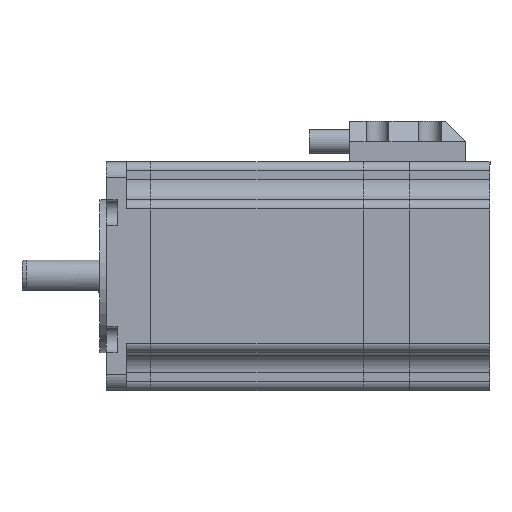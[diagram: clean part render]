
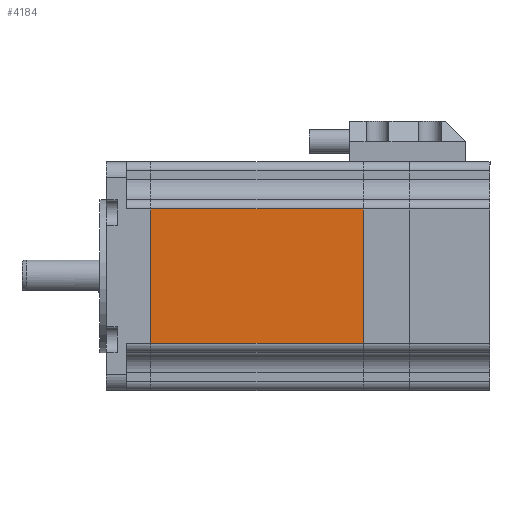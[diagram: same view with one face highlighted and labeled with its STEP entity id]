
A CAD part, left-side view. The second image highlights one B-rep face of the part: STEP entity #4184.
In plain terms, the highlighted planar face has unit normal (-1, 0, 0).
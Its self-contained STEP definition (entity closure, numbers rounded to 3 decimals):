
#224 = VERTEX_POINT ( 'NONE', #7950 ) ;
#276 = VECTOR ( 'NONE', #7300, 1000. ) ;
#309 = CARTESIAN_POINT ( 'NONE',  ( -28.5, 53., 0. ) ) ;
#350 = LINE ( 'NONE', #309, #3371 ) ;
#493 = EDGE_CURVE ( 'NONE', #3404, #224, #7056, .T. ) ;
#583 = EDGE_CURVE ( 'NONE', #3404, #1746, #350, .T. ) ;
#701 = ORIENTED_EDGE ( 'NONE', *, *, #8169, .T. ) ;
#1273 = LINE ( 'NONE', #7351, #3117 ) ;
#1746 = VERTEX_POINT ( 'NONE', #8577 ) ;
#1853 = CARTESIAN_POINT ( 'NONE',  ( -28.5, 53., 16.7 ) ) ;
#2029 = CARTESIAN_POINT ( 'NONE',  ( -28.5, 53., -16.7 ) ) ;
#2043 = DIRECTION ( 'NONE',  ( 1., 0., 0. ) ) ;
#2212 = PLANE ( 'NONE',  #3703 ) ;
#2295 = VERTEX_POINT ( 'NONE', #6384 ) ;
#2356 = CARTESIAN_POINT ( 'NONE',  ( -28.5, 53., -16.7 ) ) ;
#2752 = DIRECTION ( 'NONE',  ( 0., 0., -1. ) ) ;
#3117 = VECTOR ( 'NONE', #4625, 1000. ) ;
#3371 = VECTOR ( 'NONE', #5798, 1000. ) ;
#3404 = VERTEX_POINT ( 'NONE', #2029 ) ;
#3491 = ORIENTED_EDGE ( 'NONE', *, *, #8605, .F. ) ;
#3538 = ORIENTED_EDGE ( 'NONE', *, *, #493, .T. ) ;
#3552 = FACE_OUTER_BOUND ( 'NONE', #5370, .T. ) ;
#3703 = AXIS2_PLACEMENT_3D ( 'NONE', #4896, #2043, #2752 ) ;
#4184 = ADVANCED_FACE ( 'NONE', ( #3552 ), #2212, .F. ) ;
#4625 = DIRECTION ( 'NONE',  ( 0., 0., 1. ) ) ;
#4896 = CARTESIAN_POINT ( 'NONE',  ( -28.5, 53., 0. ) ) ;
#5083 = DIRECTION ( 'NONE',  ( 0., -1., 0. ) ) ;
#5244 = LINE ( 'NONE', #1853, #276 ) ;
#5364 = VECTOR ( 'NONE', #5083, 1000. ) ;
#5370 = EDGE_LOOP ( 'NONE', ( #701, #3491, #8395, #3538 ) ) ;
#5798 = DIRECTION ( 'NONE',  ( 0., 0., 1. ) ) ;
#6384 = CARTESIAN_POINT ( 'NONE',  ( -28.5, 0., 16.7 ) ) ;
#7056 = LINE ( 'NONE', #2356, #5364 ) ;
#7300 = DIRECTION ( 'NONE',  ( 0., -1., 0. ) ) ;
#7351 = CARTESIAN_POINT ( 'NONE',  ( -28.5, 0., 0. ) ) ;
#7950 = CARTESIAN_POINT ( 'NONE',  ( -28.5, 0., -16.7 ) ) ;
#8169 = EDGE_CURVE ( 'NONE', #224, #2295, #1273, .T. ) ;
#8395 = ORIENTED_EDGE ( 'NONE', *, *, #583, .F. ) ;
#8577 = CARTESIAN_POINT ( 'NONE',  ( -28.5, 53., 16.7 ) ) ;
#8605 = EDGE_CURVE ( 'NONE', #1746, #2295, #5244, .T. ) ;
